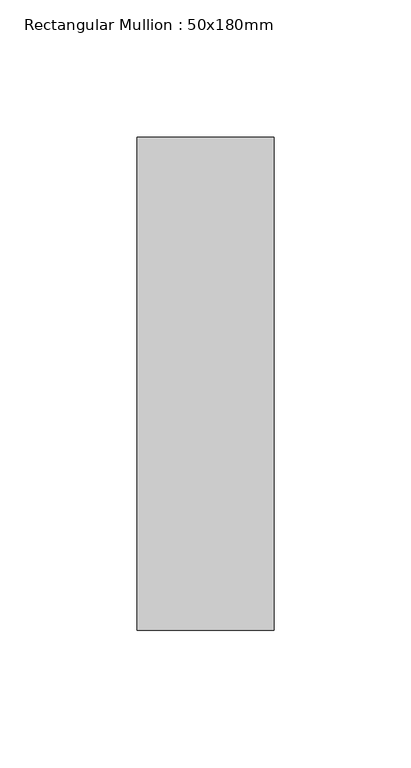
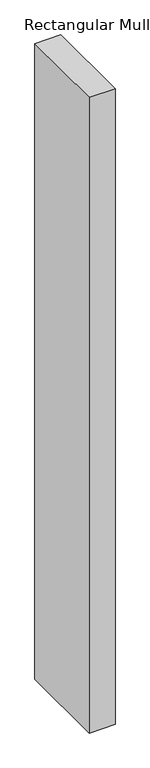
"""IFC4 building model written with IfcOpenShell, lengths in millimetres: member geometry, Rectangular Mullion : 50x180mm."""

from ifc_helpers import new_model, si_unit, frame, origin, place, context, project, spatial, polyline, outline, extrude, source, transform, mapped, element, save


def rectangular_mullion_50x180mm_28a9348e(model_context):
    return source(origin(), model_context, "Body", "SweptSolid", [
        extrude(outline(polyline([(0.0, 90.0), (0.0, -90.0), (-50.0, -90.0), (-50.0, 90.0), (0.0, 90.0)])), frame((0.0, 0.0, -1290.8333336), z_axis=(0.0, 0.0, 1.0), x_axis=(1.0, 0.0, 0.0)), (0.0, 0.0, 1.0), 1290.8333336),
    ])


if __name__ == "__main__":
    model = new_model("IFC4")
    model_context = context("Model", 3, world=origin())
    ifc_project = project(units=[si_unit("LENGTHUNIT", "METRE", prefix="MILLI")], contexts=[model_context])
    site = spatial("IfcSite", under=ifc_project)
    building = spatial("IfcBuilding", under=site)
    placement = place(None, origin())
    rectangular_mullion_50x180mm_shape = rectangular_mullion_50x180mm_28a9348e(model_context)
    element("IfcMember", 1, ObjectType="Rectangular Mullion : 50x180mm", at=placement, inside=building, context=model_context, shape_type="MappedRepresentation", body=[
        mapped(rectangular_mullion_50x180mm_shape, transform((0.0, 0.0, 0.0), x_axis=(1.0, 0.0, 0.0), y_axis=(0.0, 1.0, 0.0), z_axis=(0.0, 0.0, 1.0))),
    ])
    save(model, "model.ifc")
